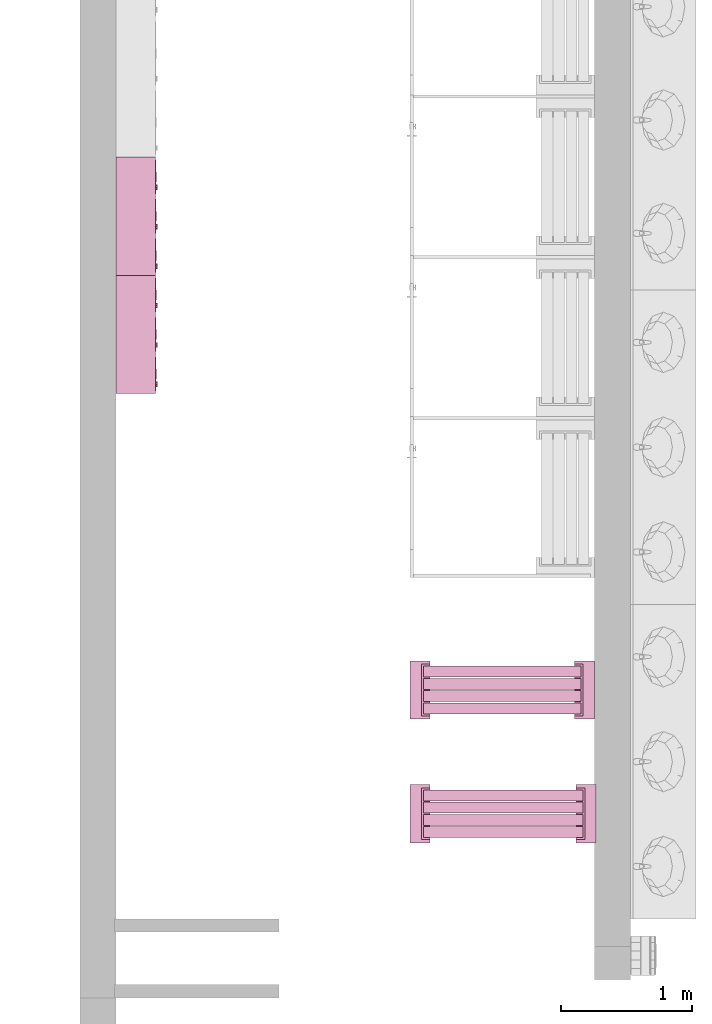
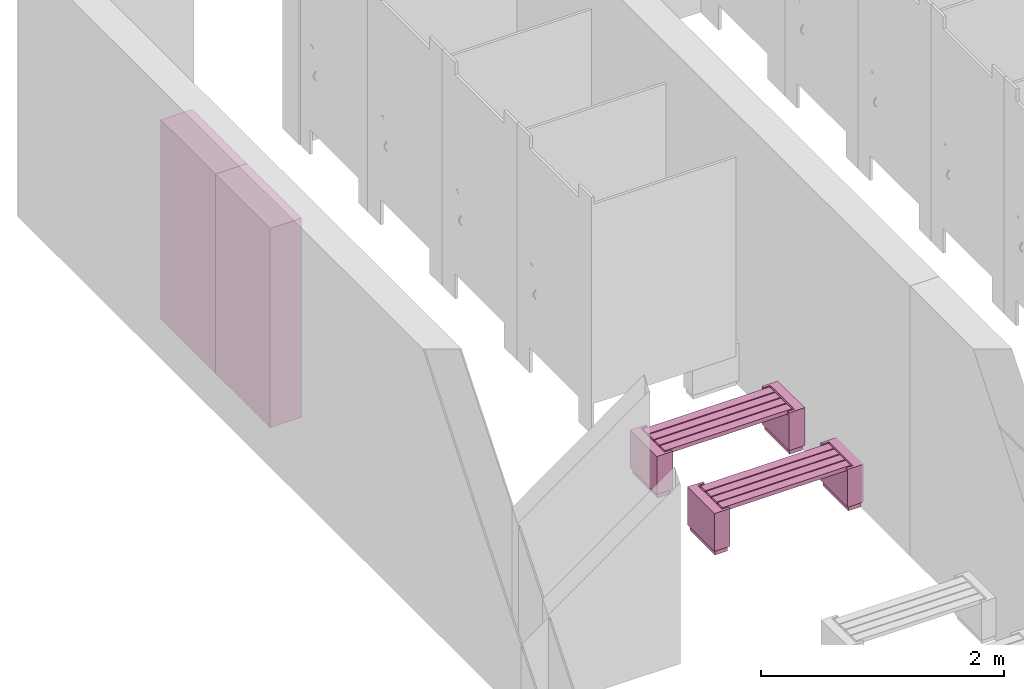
# One storey, part 18 of 22: 4 furnishings.
"""IFC2X3 building model written with IfcOpenShell, lengths in millimetres."""

from ifc_helpers import new_model, entity, si_unit, converted_unit, derived_unit, direction, frame, frame_2d, origin, origin_2d_with_axis, place, context, subcontext, project, spatial, polyline, rectangle, outline, extrude, source, transform, mapped, material, material_list, type_object, type_shapes, element, save


model = new_model("IFC2X3")

# Units and contexts
model_context = context("Model", 3, precision=0.01, world=origin(), true_north=direction((6.12303176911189e-17, 1.0)))
body_context = subcontext(model_context, "Body", "Model", "MODEL_VIEW")
ifc_project = project(units=[si_unit("LENGTHUNIT", "METRE", prefix="MILLI"), si_unit("AREAUNIT", "SQUARE_METRE"), si_unit("VOLUMEUNIT", "CUBIC_METRE"), converted_unit("PLANEANGLEUNIT", "DEGREE", entity("IfcRatioMeasure", 0.0174532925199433), si_unit("PLANEANGLEUNIT", "RADIAN"), dimensions=[0, 0, 0, 0, 0, 0, 0]), si_unit("MASSUNIT", "GRAM", prefix="KILO"), derived_unit("MASSDENSITYUNIT", [(si_unit("MASSUNIT", "GRAM", prefix="KILO"), 1), (si_unit("LENGTHUNIT", "METRE"), -3)]), si_unit("TIMEUNIT", "SECOND"), si_unit("FREQUENCYUNIT", "HERTZ"), si_unit("THERMODYNAMICTEMPERATUREUNIT", "DEGREE_CELSIUS"), derived_unit("THERMALTRANSMITTANCEUNIT", [(si_unit("MASSUNIT", "GRAM", prefix="KILO"), 1), (si_unit("THERMODYNAMICTEMPERATUREUNIT", "KELVIN"), -1), (si_unit("TIMEUNIT", "SECOND"), -3)]), derived_unit("VOLUMETRICFLOWRATEUNIT", [(si_unit("LENGTHUNIT", "METRE"), 3), (si_unit("TIMEUNIT", "SECOND"), -1)]), si_unit("ELECTRICCURRENTUNIT", "AMPERE"), si_unit("ELECTRICVOLTAGEUNIT", "VOLT"), si_unit("POWERUNIT", "WATT"), si_unit("FORCEUNIT", "NEWTON", prefix="KILO"), si_unit("ILLUMINANCEUNIT", "LUX"), si_unit("LUMINOUSFLUXUNIT", "LUMEN"), si_unit("LUMINOUSINTENSITYUNIT", "CANDELA"), derived_unit("USERDEFINED", [(si_unit("MASSUNIT", "GRAM", prefix="KILO"), -1), (si_unit("LENGTHUNIT", "METRE"), -2), (si_unit("TIMEUNIT", "SECOND"), 3), (si_unit("LUMINOUSFLUXUNIT", "LUMEN"), 1)]), derived_unit("LINEARVELOCITYUNIT", [(si_unit("LENGTHUNIT", "METRE"), 1), (si_unit("TIMEUNIT", "SECOND"), -1)]), si_unit("PRESSUREUNIT", "PASCAL"), derived_unit("USERDEFINED", [(si_unit("LENGTHUNIT", "METRE"), -2), (si_unit("MASSUNIT", "GRAM", prefix="KILO"), 1), (si_unit("TIMEUNIT", "SECOND"), -2)])], contexts=[model_context])

# Site, building, storey
site_placement = place(None, origin())
site = spatial("IfcSite", under=ifc_project, at=site_placement, Name="Default", CompositionType="ELEMENT")
building_placement = place(site_placement, origin())
building = spatial("IfcBuilding", under=site, at=building_placement, CompositionType="ELEMENT")
storey_placement = place(building_placement, frame((0.0, 0.0, -3000.0)))
storey = spatial("IfcBuildingStorey", under=building, at=storey_placement, Name="-2. Story", CompositionType="ELEMENT", Elevation=-3000.0)

# Furnishings
ifc_material_1 = material(Name="Metal - Stainless Steel")
ifc_material_2 = material(Name="Paint - Glossy White")
ifc_material_3 = material(Name="Paint - Cobalt Blue")
ifc_material_list_1 = material_list([ifc_material_1, ifc_material_2, ifc_material_3])
ifc_material_list_2 = material_list([ifc_material_1, ifc_material_2, ifc_material_3])
furniture_type_1 = type_object("IfcFurnitureType", Name="FU - 010", material=ifc_material_list_2)
shared_shape_1 = source(origin(), body_context, "Body", "SweptSolid", [
    extrude(outline(polyline([(-7.65366865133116, -18.4775906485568), (7.65366864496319, -18.4775906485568), (18.4775906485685, -7.65366865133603), (18.47759065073, 7.65366863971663), (7.65366865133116, 18.4775906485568), (-7.65366864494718, 18.4775906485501), (-18.4775906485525, 7.6536686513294), (-18.477590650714, -7.65366863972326), (-7.65366865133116, -18.4775906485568)])), frame((108074.18836, 87773.9483369, -1400.0), z_axis=(1.0, 0.0, 0.0), x_axis=(0.0, 0.923879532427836, 0.382683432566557)), (0.0, 0.0, 1.0), 10.0000000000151),
    extrude(rectangle(XDim=75.0000000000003, YDim=4.99999999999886, at=frame_2d((0.0, 8.66284821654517e-12), x_axis=(1.0, 0.0))), frame((108076.68836, 87853.9483369, -1000.0), z_axis=(0.0, 0.0, 1.0), x_axis=(0.0, 1.0, 0.0)), (0.0, 0.0, 1.0), 50.0),
    extrude(rectangle(XDim=259.999999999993, YDim=9.99999999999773, at=frame_2d((-8.65441052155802e-12, 1.73256964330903e-11), x_axis=(1.0, 0.0))), frame((108069.18836, 87853.9483369, -1880.0), z_axis=(0.0, 0.0, 1.0), x_axis=(0.0, -1.0, 0.0)), (0.0, 0.0, 1.0), 960.0),
    extrude(rectangle(XDim=300.000000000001, YDim=19.9999999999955, at=origin_2d_with_axis()), frame((107779.18836, 87853.9483369, -1900.0), z_axis=(0.0, 0.0, 1.0), x_axis=(0.0, 1.0, 0.0)), (0.0, 0.0, 1.0), 1000.0),
    extrude(outline(polyline([(-500.0, -150.0), (500.0, -150.0), (500.0, 150.0), (-500.0, 150.0), (-500.0, -150.0)]), holes=[polyline([(480.0, 130.0), (480.0, -130.0), (-480.0, -130.0), (-480.0, 130.0), (480.0, 130.0)])]), frame((107789.18836, 87853.9483369, -1400.0), z_axis=(1.0, 0.0, 0.0), x_axis=(0.0, 0.0, -1.0)), (0.0, 0.0, 1.0), 280.000000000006),
    extrude(outline(polyline([(-7.65366865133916, -18.4775906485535), (7.65366864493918, -18.4775906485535), (18.4775906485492, -7.6536686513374), (18.4775906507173, 7.65366863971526), (7.65366865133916, 18.4775906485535), (-7.65366864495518, 18.4775906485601), (-18.4775906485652, 7.65366865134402), (-18.4775906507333, -7.65366863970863), (-7.65366865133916, -18.4775906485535)])), frame((108074.18836, 87473.9483369, -1400.0), z_axis=(1.0, 0.0, 0.0), x_axis=(0.0, 0.923879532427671, 0.382683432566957)), (0.0, 0.0, 1.0), 10.0000000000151),
    extrude(rectangle(XDim=75.0000000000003, YDim=4.99999999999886, at=frame_2d((0.0, 8.66284821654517e-12), x_axis=(1.0, 0.0))), frame((108076.68836, 87553.9483369, -1000.0), z_axis=(0.0, 0.0, 1.0), x_axis=(0.0, 1.0, 0.0)), (0.0, 0.0, 1.0), 50.0),
    extrude(rectangle(XDim=259.999999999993, YDim=9.99999999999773, at=frame_2d((-8.65441052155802e-12, 1.73256964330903e-11), x_axis=(1.0, 0.0))), frame((108069.18836, 87553.9483369, -1880.0), z_axis=(0.0, 0.0, 1.0), x_axis=(0.0, -1.0, 0.0)), (0.0, 0.0, 1.0), 960.0),
    extrude(rectangle(XDim=300.000000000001, YDim=19.9999999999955, at=origin_2d_with_axis()), frame((107779.18836, 87553.9483369, -1900.0), z_axis=(0.0, 0.0, 1.0), x_axis=(0.0, 1.0, 0.0)), (0.0, 0.0, 1.0), 1000.0),
    extrude(outline(polyline([(-500.0, -150.0), (500.0, -150.0), (500.0, 150.0), (-500.0, 150.0), (-500.0, -150.0)]), holes=[polyline([(480.0, 130.0), (480.0, -130.0), (-480.0, -130.0), (-480.0, 130.0), (480.0, 130.0)])]), frame((107789.18836, 87553.9483369, -1400.0), z_axis=(1.0, 0.0, 0.0), x_axis=(0.0, 0.0, -1.0)), (0.0, 0.0, 1.0), 280.000000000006),
    extrude(outline(polyline([(-7.65366865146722, -18.4775906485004), (7.653668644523, -18.4775906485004), (18.4775906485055, -7.65366865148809), (18.4775906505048, 7.65366863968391), (7.65366865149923, 18.4775906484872), (-7.65366864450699, 18.4775906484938), (-18.4775906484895, 7.65366865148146), (-18.4775906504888, -7.65366863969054), (-7.65366865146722, -18.4775906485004)])), frame((108074.18836, 87173.9483369, -1400.0), z_axis=(1.0, 0.0, 0.0), x_axis=(0.0, 0.923879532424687, 0.38268343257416)), (0.0, 0.0, 1.0), 10.0000000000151),
    extrude(rectangle(XDim=75.0000000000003, YDim=4.99999999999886, at=frame_2d((0.0, 8.66284821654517e-12), x_axis=(1.0, 0.0))), frame((108076.68836, 87253.9483369, -1000.0), z_axis=(0.0, 0.0, 1.0), x_axis=(0.0, 1.0, 0.0)), (0.0, 0.0, 1.0), 50.0),
    extrude(rectangle(XDim=259.999999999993, YDim=9.99999999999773, at=frame_2d((-8.65441052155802e-12, 1.73256964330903e-11), x_axis=(1.0, 0.0))), frame((108069.18836, 87253.9483369, -1880.0), z_axis=(0.0, 0.0, 1.0), x_axis=(0.0, -1.0, 0.0)), (0.0, 0.0, 1.0), 960.0),
    extrude(rectangle(XDim=300.000000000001, YDim=19.9999999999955, at=origin_2d_with_axis()), frame((107779.18836, 87253.9483369, -1900.0), z_axis=(0.0, 0.0, 1.0), x_axis=(0.0, 1.0, 0.0)), (0.0, 0.0, 1.0), 1000.0),
    extrude(outline(polyline([(-500.0, -150.0), (500.0, -150.0), (500.0, 150.0), (-500.0, 150.0), (-500.0, -150.0)]), holes=[polyline([(480.0, 130.0), (480.0, -130.0), (-480.0, -130.0), (-480.0, 130.0), (480.0, 130.0)])]), frame((107789.18836, 87253.9483369, -1400.0), z_axis=(1.0, 0.0, 0.0), x_axis=(0.0, 0.0, -1.0)), (0.0, 0.0, 1.0), 280.000000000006),
    extrude(outline(polyline([(-7.65366864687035, -18.4775906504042), (7.65366864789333, -18.4775906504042), (18.4775906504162, -7.65366864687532), (18.477590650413, 7.65366864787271), (7.65366864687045, 18.4775906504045), (-7.65366864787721, 18.4775906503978), (-18.4775906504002, 7.65366864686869), (-18.4775906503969, -7.65366864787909), (-7.65366864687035, -18.4775906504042)])), frame((108074.18836, 87773.9483369, -2400.0), z_axis=(1.0, 0.0, 0.0), x_axis=(0.0, 0.923879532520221, 0.382683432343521)), (0.0, 0.0, 1.0), 10.0000000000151),
    extrude(rectangle(XDim=75.0000000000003, YDim=4.99999999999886, at=frame_2d((0.0, 8.66284821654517e-12), x_axis=(1.0, 0.0))), frame((108076.68836, 87853.9483369, -2000.0), z_axis=(0.0, 0.0, 1.0), x_axis=(0.0, 1.0, 0.0)), (0.0, 0.0, 1.0), 50.0),
    extrude(rectangle(XDim=259.999999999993, YDim=9.99999999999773, at=frame_2d((-8.65441052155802e-12, 1.73256964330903e-11), x_axis=(1.0, 0.0))), frame((108069.18836, 87853.9483369, -2880.0), z_axis=(0.0, 0.0, 1.0), x_axis=(0.0, -1.0, 0.0)), (0.0, 0.0, 1.0), 960.0),
    extrude(rectangle(XDim=300.000000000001, YDim=19.9999999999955, at=origin_2d_with_axis()), frame((107779.18836, 87853.9483369, -2900.0), z_axis=(0.0, 0.0, 1.0), x_axis=(0.0, 1.0, 0.0)), (0.0, 0.0, 1.0), 1000.0),
    extrude(outline(polyline([(-500.0, -150.0), (500.0, -150.0), (500.0, 150.0), (-500.0, 150.0), (-500.0, -150.0)]), holes=[polyline([(480.0, 130.0), (480.0, -130.0), (-480.0, -130.0), (-480.0, 130.0), (480.0, 130.0)])]), frame((107789.18836, 87853.9483369, -2400.0), z_axis=(1.0, 0.0, 0.0), x_axis=(0.0, 0.0, -1.0)), (0.0, 0.0, 1.0), 280.000000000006),
    extrude(outline(polyline([(-7.65366864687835, -18.4775906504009), (7.65366864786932, -18.4775906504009), (18.4775906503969, -7.65366864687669), (18.4775906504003, 7.65366864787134), (7.65366864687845, 18.4775906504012), (-7.65366864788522, 18.4775906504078), (-18.4775906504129, 7.65366864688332), (-18.4775906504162, -7.65366864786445), (-7.65366864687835, -18.4775906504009)])), frame((108074.18836, 87473.9483369, -2400.0), z_axis=(1.0, 0.0, 0.0), x_axis=(0.0, 0.923879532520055, 0.382683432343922)), (0.0, 0.0, 1.0), 10.0000000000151),
    extrude(rectangle(XDim=75.0000000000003, YDim=4.99999999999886, at=frame_2d((0.0, 8.66284821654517e-12), x_axis=(1.0, 0.0))), frame((108076.68836, 87553.9483369, -2000.0), z_axis=(0.0, 0.0, 1.0), x_axis=(0.0, 1.0, 0.0)), (0.0, 0.0, 1.0), 50.0),
    extrude(rectangle(XDim=259.999999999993, YDim=9.99999999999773, at=frame_2d((-8.65441052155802e-12, 1.73256964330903e-11), x_axis=(1.0, 0.0))), frame((108069.18836, 87553.9483369, -2880.0), z_axis=(0.0, 0.0, 1.0), x_axis=(0.0, -1.0, 0.0)), (0.0, 0.0, 1.0), 960.0),
    extrude(rectangle(XDim=300.000000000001, YDim=19.9999999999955, at=origin_2d_with_axis()), frame((107779.18836, 87553.9483369, -2900.0), z_axis=(0.0, 0.0, 1.0), x_axis=(0.0, 1.0, 0.0)), (0.0, 0.0, 1.0), 1000.0),
    extrude(outline(polyline([(-500.0, -150.0), (500.0, -150.0), (500.0, 150.0), (-500.0, 150.0), (-500.0, -150.0)]), holes=[polyline([(480.0, 130.0), (480.0, -130.0), (-480.0, -130.0), (-480.0, 130.0), (480.0, 130.0)])]), frame((107789.18836, 87553.9483369, -2400.0), z_axis=(1.0, 0.0, 0.0), x_axis=(0.0, 0.0, -1.0)), (0.0, 0.0, 1.0), 280.000000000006),
    extrude(outline(polyline([(-7.65366864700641, -18.4775906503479), (7.65366864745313, -18.4775906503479), (18.4775906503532, -7.65366864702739), (18.4775906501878, 7.65366864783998), (7.65366864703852, 18.4775906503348), (-7.65366864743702, 18.4775906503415), (-18.4775906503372, 7.65366864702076), (-18.4775906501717, -7.65366864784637), (-7.65366864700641, -18.4775906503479)])), frame((108074.18836, 87173.9483369, -2400.0), z_axis=(1.0, 0.0, 0.0), x_axis=(0.0, 0.923879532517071, 0.382683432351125)), (0.0, 0.0, 1.0), 10.0000000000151),
    extrude(rectangle(XDim=75.0000000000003, YDim=4.99999999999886, at=frame_2d((0.0, 8.66284821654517e-12), x_axis=(1.0, 0.0))), frame((108076.68836, 87253.9483369, -2000.0), z_axis=(0.0, 0.0, 1.0), x_axis=(0.0, 1.0, 0.0)), (0.0, 0.0, 1.0), 50.0),
    extrude(rectangle(XDim=259.999999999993, YDim=9.99999999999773, at=frame_2d((-8.65441052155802e-12, 1.73256964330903e-11), x_axis=(1.0, 0.0))), frame((108069.18836, 87253.9483369, -2880.0), z_axis=(0.0, 0.0, 1.0), x_axis=(0.0, -1.0, 0.0)), (0.0, 0.0, 1.0), 960.0),
    extrude(rectangle(XDim=300.000000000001, YDim=19.9999999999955, at=origin_2d_with_axis()), frame((107779.18836, 87253.9483369, -2900.0), z_axis=(0.0, 0.0, 1.0), x_axis=(0.0, 1.0, 0.0)), (0.0, 0.0, 1.0), 1000.0),
    extrude(outline(polyline([(-500.0, -150.0), (500.0, -150.0), (500.0, 150.0), (-500.0, 150.0), (-500.0, -150.0)]), holes=[polyline([(480.0, 130.0), (480.0, -130.0), (-480.0, -130.0), (-480.0, 130.0), (480.0, 130.0)])]), frame((107789.18836, 87253.9483369, -2400.0), z_axis=(1.0, 0.0, 0.0), x_axis=(0.0, 0.0, -1.0)), (0.0, 0.0, 1.0), 280.000000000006),
])
type_shapes(furniture_type_1, [shared_shape_1])
furnishing_1_placement = place(storey_placement, frame((0.0, 0.0, 3000.0)))
element("IfcFurnishingElement", 1, at=furnishing_1_placement, inside=storey, type_object=furniture_type_1, material=ifc_material_list_1, Name="FU - 010 1603691:FU - 010 1603691", ObjectType="FU - 010 1603691:FU - 010 1603691", context=body_context, shape_type="MappedRepresentation", body=[
    mapped(shared_shape_1, transform((0.0, 0.0, 0.0), scale=1.0)),
])
ifc_material_4 = material(Name="Wood - Pine Grained Horizontal")
ifc_material_5 = material(Name="Paint - Titanium White")
ifc_material_list_3 = material_list([ifc_material_4, ifc_material_5])
ifc_material_list_4 = material_list([ifc_material_4, ifc_material_5])
furniture_type_2 = type_object("IfcFurnitureType", Name="FU - 011", material=ifc_material_list_4)
shared_shape_2 = source(origin(), body_context, "Body", "SweptSolid", [
    extrude(rectangle(XDim=83.1575481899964, YDim=1214.87365918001, at=frame_2d((-8.66506866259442e-12, 8.69704308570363e-12), x_axis=(1.0, 0.0))), frame((110716.29375159, 84043.684659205, -2510.0), z_axis=(0.0, 0.0, 1.0), x_axis=(0.0, -1.0, 0.0)), (0.0, 0.0, 1.0), 40.0000000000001),
    extrude(rectangle(XDim=83.157548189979, YDim=1214.87365918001, at=frame_2d((0.0, 8.69704308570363e-12), x_axis=(1.0, 0.0))), frame((110716.29375159, 83950.527111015, -2510.0), z_axis=(0.0, 0.0, 1.0), x_axis=(0.0, -1.0, 0.0)), (0.0, 0.0, 1.0), 40.0000000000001),
    extrude(rectangle(XDim=83.1575481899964, YDim=1214.87365918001, at=frame_2d((8.66506866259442e-12, 8.69704308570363e-12), x_axis=(1.0, 0.0))), frame((110716.29375159, 83857.369562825, -2510.0), z_axis=(0.0, 0.0, 1.0), x_axis=(0.0, -1.0, 0.0)), (0.0, 0.0, 1.0), 40.0000000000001),
    extrude(rectangle(XDim=83.1575481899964, YDim=1214.87365918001, at=frame_2d((-8.66506866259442e-12, 8.69704308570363e-12), x_axis=(1.0, 0.0))), frame((110716.29375159, 83764.212014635, -2510.0), z_axis=(0.0, 0.0, 1.0), x_axis=(0.0, -1.0, 0.0)), (0.0, 0.0, 1.0), 40.0000000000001),
    extrude(outline(polyline([(-53.7499999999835, -221.315096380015), (96.2500000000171, -221.315096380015), (96.2500000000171, 221.315096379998), (-53.7499999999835, 221.315096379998), (-53.7499999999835, 196.315096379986), (11.2500000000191, 196.315096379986), (11.2500000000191, -196.315096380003), (-53.7499999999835, -196.315096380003), (-53.7499999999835, -221.315096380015)])), frame((111327.48058118, 83903.94833692, -2510.0)), (0.0, 0.0, 1.0), 40.0000000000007),
    extrude(rectangle(XDim=150.000000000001, YDim=442.630192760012, at=frame_2d((0.0, -8.66862137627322e-12), x_axis=(1.0, 0.0))), frame((111348.73058118, 83903.94833692, -2850.0)), (0.0, 0.0, 1.0), 340.0),
    extrude(rectangle(XDim=120.000000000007, YDim=412.630192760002, at=origin_2d_with_axis()), frame((111348.73058118, 83903.94833692, -2900.0)), (0.0, 0.0, 1.0), 50.0),
    extrude(outline(polyline([(-221.315096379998, -96.2499999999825), (221.315096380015, -96.2499999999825), (221.315096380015, 53.7500000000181), (196.315096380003, 53.7500000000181), (196.315096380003, -11.2499999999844), (-196.315096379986, -11.2499999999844), (-196.315096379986, 53.7500000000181), (-221.315096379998, 53.7500000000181), (-221.315096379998, -96.2499999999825)])), frame((110105.106922, 83903.94833692, -2510.0), z_axis=(0.0, 0.0, 1.0), x_axis=(0.0, -1.0, 0.0)), (0.0, 0.0, 1.0), 40.0000000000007),
    extrude(rectangle(XDim=442.630192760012, YDim=150.000000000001, at=frame_2d((8.66862137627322e-12, 0.0), x_axis=(1.0, 0.0))), frame((110083.856922, 83903.94833692, -2850.0), z_axis=(0.0, 0.0, 1.0), x_axis=(0.0, -1.0, 0.0)), (0.0, 0.0, 1.0), 340.0),
    extrude(rectangle(XDim=412.630192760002, YDim=120.000000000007, at=origin_2d_with_axis()), frame((110083.856922, 83903.94833692, -2900.0), z_axis=(0.0, 0.0, 1.0), x_axis=(0.0, -1.0, 0.0)), (0.0, 0.0, 1.0), 50.0),
])
type_shapes(furniture_type_2, [shared_shape_2])
furnishing_2_placement = place(storey_placement, frame((0.0, 0.0, 3000.0)))
element("IfcFurnishingElement", 2, at=furnishing_2_placement, inside=storey, type_object=furniture_type_2, material=ifc_material_list_3, Name="FU - 011 1604263:FU - 011 1604263", ObjectType="FU - 011 1604263:FU - 011 1604263", context=body_context, shape_type="MappedRepresentation", body=[
    mapped(shared_shape_2, transform((0.0, 0.0, 0.0), scale=1.0)),
])
ifc_material_list_5 = material_list([ifc_material_4, ifc_material_5])
ifc_material_list_6 = material_list([ifc_material_4, ifc_material_5])
furniture_type_3 = type_object("IfcFurnitureType", Name="FU - 011", material=ifc_material_list_6)
shared_shape_3 = source(origin(), body_context, "Body", "SweptSolid", [
    extrude(rectangle(XDim=83.1575481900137, YDim=1202.37365918, at=frame_2d((0.0, 8.64019966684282e-12), x_axis=(1.0, 0.0))), frame((110710.04375159, 84986.314851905, -2510.0), z_axis=(0.0, 0.0, 1.0), x_axis=(0.0, -1.0, 0.0)), (0.0, 0.0, 1.0), 40.0000000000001),
    extrude(rectangle(XDim=83.157548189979, YDim=1202.37365918, at=frame_2d((0.0, 8.64019966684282e-12), x_axis=(1.0, 0.0))), frame((110710.04375159, 84893.157303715, -2510.0), z_axis=(0.0, 0.0, 1.0), x_axis=(0.0, -1.0, 0.0)), (0.0, 0.0, 1.0), 40.0000000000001),
    extrude(rectangle(XDim=83.1575481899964, YDim=1202.37365918, at=frame_2d((8.66506866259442e-12, 8.64019966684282e-12), x_axis=(1.0, 0.0))), frame((110710.04375159, 84799.999755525, -2510.0), z_axis=(0.0, 0.0, 1.0), x_axis=(0.0, -1.0, 0.0)), (0.0, 0.0, 1.0), 40.0000000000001),
    extrude(rectangle(XDim=83.1575481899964, YDim=1202.37365918, at=frame_2d((-8.66506866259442e-12, 8.64019966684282e-12), x_axis=(1.0, 0.0))), frame((110710.04375159, 84706.842207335, -2510.0), z_axis=(0.0, 0.0, 1.0), x_axis=(0.0, -1.0, 0.0)), (0.0, 0.0, 1.0), 40.0000000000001),
    extrude(outline(polyline([(-53.7499999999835, -221.315096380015), (96.2500000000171, -221.315096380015), (96.2500000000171, 221.315096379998), (-53.7499999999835, 221.315096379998), (-53.7499999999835, 196.315096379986), (11.2500000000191, 196.315096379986), (11.2500000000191, -196.315096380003), (-53.7499999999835, -196.315096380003), (-53.7499999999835, -221.315096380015)])), frame((111314.98058118, 84846.57852962, -2510.0)), (0.0, 0.0, 1.0), 40.0000000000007),
    extrude(rectangle(XDim=150.000000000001, YDim=442.630192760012, at=frame_2d((0.0, -8.66862137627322e-12), x_axis=(1.0, 0.0))), frame((111336.23058118, 84846.57852962, -2850.0)), (0.0, 0.0, 1.0), 340.0),
    extrude(rectangle(XDim=119.99999999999, YDim=412.630192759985, at=frame_2d((8.66506866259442e-12, -8.66862137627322e-12), x_axis=(1.0, 0.0))), frame((111336.23058118, 84846.57852962, -2900.0)), (0.0, 0.0, 1.0), 50.0),
    extrude(outline(polyline([(-221.315096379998, -96.2499999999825), (221.315096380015, -96.2499999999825), (221.315096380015, 53.7500000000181), (196.315096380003, 53.7500000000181), (196.315096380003, -11.2499999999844), (-196.315096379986, -11.2499999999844), (-196.315096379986, 53.7500000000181), (-221.315096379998, 53.7500000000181), (-221.315096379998, -96.2499999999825)])), frame((110105.106922, 84846.57852962, -2510.0), z_axis=(0.0, 0.0, 1.0), x_axis=(0.0, -1.0, 0.0)), (0.0, 0.0, 1.0), 40.0000000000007),
    extrude(rectangle(XDim=442.630192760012, YDim=150.000000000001, at=frame_2d((8.66862137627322e-12, 0.0), x_axis=(1.0, 0.0))), frame((110083.856922, 84846.57852962, -2850.0), z_axis=(0.0, 0.0, 1.0), x_axis=(0.0, -1.0, 0.0)), (0.0, 0.0, 1.0), 340.0),
    extrude(rectangle(XDim=412.630192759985, YDim=120.000000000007, at=frame_2d((8.66862137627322e-12, 0.0), x_axis=(1.0, 0.0))), frame((110083.856922, 84846.57852962, -2900.0), z_axis=(0.0, 0.0, 1.0), x_axis=(0.0, -1.0, 0.0)), (0.0, 0.0, 1.0), 50.0),
])
type_shapes(furniture_type_3, [shared_shape_3])
furnishing_3_placement = place(storey_placement, frame((0.0, 0.0, 3000.0)))
element("IfcFurnishingElement", 3, at=furnishing_3_placement, inside=storey, type_object=furniture_type_3, material=ifc_material_list_5, Name="FU - 011 1604412:FU - 011 1604412", ObjectType="FU - 011 1604412:FU - 011 1604412", context=body_context, shape_type="MappedRepresentation", body=[
    mapped(shared_shape_3, transform((0.0, 0.0, 0.0), scale=1.0)),
])
ifc_material_list_7 = material_list([ifc_material_1, ifc_material_2, ifc_material_3])
ifc_material_list_8 = material_list([ifc_material_1, ifc_material_2, ifc_material_3])
furniture_type_4 = type_object("IfcFurnitureType", Name="FU - 010", material=ifc_material_list_8)
shared_shape_4 = source(origin(), body_context, "Body", "SweptSolid", [
    extrude(outline(polyline([(-7.65366865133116, -18.4775906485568), (7.65366864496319, -18.4775906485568), (18.4775906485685, -7.65366865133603), (18.47759065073, 7.65366863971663), (7.65366865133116, 18.4775906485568), (-7.65366864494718, 18.4775906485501), (-18.4775906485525, 7.6536686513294), (-18.477590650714, -7.65366863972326), (-7.65366865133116, -18.4775906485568)])), frame((108074.18836, 88673.9483369, -1400.0), z_axis=(1.0, 0.0, 0.0), x_axis=(0.0, 0.923879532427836, 0.382683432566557)), (0.0, 0.0, 1.0), 10.0000000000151),
    extrude(rectangle(XDim=75.0000000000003, YDim=4.99999999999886, at=frame_2d((0.0, 8.66284821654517e-12), x_axis=(1.0, 0.0))), frame((108076.68836, 88753.9483369, -1000.0), z_axis=(0.0, 0.0, 1.0), x_axis=(0.0, 1.0, 0.0)), (0.0, 0.0, 1.0), 50.0),
    extrude(rectangle(XDim=259.999999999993, YDim=9.99999999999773, at=frame_2d((-8.65441052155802e-12, 1.73256964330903e-11), x_axis=(1.0, 0.0))), frame((108069.18836, 88753.9483369, -1880.0), z_axis=(0.0, 0.0, 1.0), x_axis=(0.0, -1.0, 0.0)), (0.0, 0.0, 1.0), 960.0),
    extrude(rectangle(XDim=300.000000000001, YDim=19.9999999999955, at=origin_2d_with_axis()), frame((107779.18836, 88753.9483369, -1900.0), z_axis=(0.0, 0.0, 1.0), x_axis=(0.0, 1.0, 0.0)), (0.0, 0.0, 1.0), 1000.0),
    extrude(outline(polyline([(-500.0, -150.0), (500.0, -150.0), (500.0, 150.0), (-500.0, 150.0), (-500.0, -150.0)]), holes=[polyline([(480.0, 130.0), (480.0, -130.0), (-480.0, -130.0), (-480.0, 130.0), (480.0, 130.0)])]), frame((107789.18836, 88753.9483369, -1400.0), z_axis=(1.0, 0.0, 0.0), x_axis=(0.0, 0.0, -1.0)), (0.0, 0.0, 1.0), 280.000000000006),
    extrude(outline(polyline([(-7.65366865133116, -18.4775906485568), (7.65366864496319, -18.4775906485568), (18.4775906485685, -7.65366865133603), (18.47759065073, 7.65366863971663), (7.65366865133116, 18.4775906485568), (-7.65366864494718, 18.4775906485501), (-18.4775906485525, 7.6536686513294), (-18.477590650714, -7.65366863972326), (-7.65366865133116, -18.4775906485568)])), frame((108074.18836, 88373.9483369, -1400.0), z_axis=(1.0, 0.0, 0.0), x_axis=(0.0, 0.923879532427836, 0.382683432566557)), (0.0, 0.0, 1.0), 10.0000000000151),
    extrude(rectangle(XDim=75.0000000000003, YDim=4.99999999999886, at=frame_2d((0.0, 8.66284821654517e-12), x_axis=(1.0, 0.0))), frame((108076.68836, 88453.9483369, -1000.0), z_axis=(0.0, 0.0, 1.0), x_axis=(0.0, 1.0, 0.0)), (0.0, 0.0, 1.0), 50.0),
    extrude(rectangle(XDim=259.999999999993, YDim=9.99999999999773, at=frame_2d((-8.65441052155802e-12, 1.73256964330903e-11), x_axis=(1.0, 0.0))), frame((108069.18836, 88453.9483369, -1880.0), z_axis=(0.0, 0.0, 1.0), x_axis=(0.0, -1.0, 0.0)), (0.0, 0.0, 1.0), 960.0),
    extrude(rectangle(XDim=300.000000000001, YDim=19.9999999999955, at=origin_2d_with_axis()), frame((107779.18836, 88453.9483369, -1900.0), z_axis=(0.0, 0.0, 1.0), x_axis=(0.0, 1.0, 0.0)), (0.0, 0.0, 1.0), 1000.0),
    extrude(outline(polyline([(-500.0, -150.0), (500.0, -150.0), (500.0, 150.0), (-500.0, 150.0), (-500.0, -150.0)]), holes=[polyline([(480.0, 130.0), (480.0, -130.0), (-480.0, -130.0), (-480.0, 130.0), (480.0, 130.0)])]), frame((107789.18836, 88453.9483369, -1400.0), z_axis=(1.0, 0.0, 0.0), x_axis=(0.0, 0.0, -1.0)), (0.0, 0.0, 1.0), 280.000000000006),
    extrude(outline(polyline([(-7.65366865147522, -18.4775906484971), (7.653668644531, -18.4775906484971), (18.4775906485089, -7.65366865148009), (18.4775906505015, 7.65366863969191), (7.65366865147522, 18.4775906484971), (-7.65366864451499, 18.4775906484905), (-18.4775906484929, 7.65366865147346), (-18.4775906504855, -7.65366863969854), (-7.65366865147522, -18.4775906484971)])), frame((108074.18836, 88073.9483369, -1400.0), z_axis=(1.0, 0.0, 0.0), x_axis=(0.0, 0.923879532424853, 0.38268343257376)), (0.0, 0.0, 1.0), 10.0000000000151),
    extrude(rectangle(XDim=75.0000000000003, YDim=4.99999999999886, at=frame_2d((0.0, 8.66284821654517e-12), x_axis=(1.0, 0.0))), frame((108076.68836, 88153.9483369, -1000.0), z_axis=(0.0, 0.0, 1.0), x_axis=(0.0, 1.0, 0.0)), (0.0, 0.0, 1.0), 50.0),
    extrude(rectangle(XDim=259.999999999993, YDim=9.99999999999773, at=frame_2d((-8.65441052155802e-12, 1.73256964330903e-11), x_axis=(1.0, 0.0))), frame((108069.18836, 88153.9483369, -1880.0), z_axis=(0.0, 0.0, 1.0), x_axis=(0.0, -1.0, 0.0)), (0.0, 0.0, 1.0), 960.0),
    extrude(rectangle(XDim=299.999999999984, YDim=19.9999999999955, at=frame_2d((8.65441052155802e-12, 0.0), x_axis=(1.0, 0.0))), frame((107779.18836, 88153.9483369, -1900.0), z_axis=(0.0, 0.0, 1.0), x_axis=(0.0, 1.0, 0.0)), (0.0, 0.0, 1.0), 1000.0),
    extrude(outline(polyline([(-500.0, -150.0), (500.0, -150.0), (500.0, 150.0), (-500.0, 150.0), (-500.0, -150.0)]), holes=[polyline([(480.0, 130.0), (480.0, -130.0), (-480.0, -130.0), (-480.0, 130.0), (480.0, 130.0)])]), frame((107789.18836, 88153.9483369, -1400.0), z_axis=(1.0, 0.0, 0.0), x_axis=(0.0, 0.0, -1.0)), (0.0, 0.0, 1.0), 280.000000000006),
    extrude(outline(polyline([(-7.65366864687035, -18.4775906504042), (7.65366864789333, -18.4775906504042), (18.4775906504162, -7.65366864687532), (18.477590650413, 7.65366864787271), (7.65366864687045, 18.4775906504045), (-7.65366864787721, 18.4775906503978), (-18.4775906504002, 7.65366864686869), (-18.4775906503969, -7.65366864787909), (-7.65366864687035, -18.4775906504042)])), frame((108074.18836, 88673.9483369, -2400.0), z_axis=(1.0, 0.0, 0.0), x_axis=(0.0, 0.923879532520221, 0.382683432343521)), (0.0, 0.0, 1.0), 10.0000000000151),
    extrude(rectangle(XDim=75.0000000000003, YDim=4.99999999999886, at=frame_2d((0.0, 8.66284821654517e-12), x_axis=(1.0, 0.0))), frame((108076.68836, 88753.9483369, -2000.0), z_axis=(0.0, 0.0, 1.0), x_axis=(0.0, 1.0, 0.0)), (0.0, 0.0, 1.0), 50.0),
    extrude(rectangle(XDim=259.999999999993, YDim=9.99999999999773, at=frame_2d((-8.65441052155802e-12, 1.73256964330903e-11), x_axis=(1.0, 0.0))), frame((108069.18836, 88753.9483369, -2880.0), z_axis=(0.0, 0.0, 1.0), x_axis=(0.0, -1.0, 0.0)), (0.0, 0.0, 1.0), 960.0),
    extrude(rectangle(XDim=300.000000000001, YDim=19.9999999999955, at=origin_2d_with_axis()), frame((107779.18836, 88753.9483369, -2900.0), z_axis=(0.0, 0.0, 1.0), x_axis=(0.0, 1.0, 0.0)), (0.0, 0.0, 1.0), 1000.0),
    extrude(outline(polyline([(-500.0, -150.0), (500.0, -150.0), (500.0, 150.0), (-500.0, 150.0), (-500.0, -150.0)]), holes=[polyline([(480.0, 130.0), (480.0, -130.0), (-480.0, -130.0), (-480.0, 130.0), (480.0, 130.0)])]), frame((107789.18836, 88753.9483369, -2400.0), z_axis=(1.0, 0.0, 0.0), x_axis=(0.0, 0.0, -1.0)), (0.0, 0.0, 1.0), 280.000000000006),
    extrude(outline(polyline([(-7.65366864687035, -18.4775906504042), (7.65366864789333, -18.4775906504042), (18.4775906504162, -7.65366864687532), (18.477590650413, 7.65366864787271), (7.65366864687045, 18.4775906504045), (-7.65366864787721, 18.4775906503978), (-18.4775906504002, 7.65366864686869), (-18.4775906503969, -7.65366864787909), (-7.65366864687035, -18.4775906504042)])), frame((108074.18836, 88373.9483369, -2400.0), z_axis=(1.0, 0.0, 0.0), x_axis=(0.0, 0.923879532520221, 0.382683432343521)), (0.0, 0.0, 1.0), 10.0000000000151),
    extrude(rectangle(XDim=75.0000000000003, YDim=4.99999999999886, at=frame_2d((0.0, 8.66284821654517e-12), x_axis=(1.0, 0.0))), frame((108076.68836, 88453.9483369, -2000.0), z_axis=(0.0, 0.0, 1.0), x_axis=(0.0, 1.0, 0.0)), (0.0, 0.0, 1.0), 50.0),
    extrude(rectangle(XDim=259.999999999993, YDim=9.99999999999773, at=frame_2d((-8.65441052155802e-12, 1.73256964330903e-11), x_axis=(1.0, 0.0))), frame((108069.18836, 88453.9483369, -2880.0), z_axis=(0.0, 0.0, 1.0), x_axis=(0.0, -1.0, 0.0)), (0.0, 0.0, 1.0), 960.0),
    extrude(rectangle(XDim=300.000000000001, YDim=19.9999999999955, at=origin_2d_with_axis()), frame((107779.18836, 88453.9483369, -2900.0), z_axis=(0.0, 0.0, 1.0), x_axis=(0.0, 1.0, 0.0)), (0.0, 0.0, 1.0), 1000.0),
    extrude(outline(polyline([(-500.0, -150.0), (500.0, -150.0), (500.0, 150.0), (-500.0, 150.0), (-500.0, -150.0)]), holes=[polyline([(480.0, 130.0), (480.0, -130.0), (-480.0, -130.0), (-480.0, 130.0), (480.0, 130.0)])]), frame((107789.18836, 88453.9483369, -2400.0), z_axis=(1.0, 0.0, 0.0), x_axis=(0.0, 0.0, -1.0)), (0.0, 0.0, 1.0), 280.000000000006),
    extrude(outline(polyline([(-7.65366864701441, -18.4775906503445), (7.65366864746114, -18.4775906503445), (18.4775906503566, -7.65366864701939), (18.4775906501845, 7.65366864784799), (7.65366864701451, 18.4775906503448), (-7.65366864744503, 18.4775906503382), (-18.4775906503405, 7.65366864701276), (-18.4775906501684, -7.65366864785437), (-7.65366864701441, -18.4775906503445)])), frame((108074.18836, 88073.9483369, -2400.0), z_axis=(1.0, 0.0, 0.0), x_axis=(0.0, 0.923879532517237, 0.382683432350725)), (0.0, 0.0, 1.0), 10.0000000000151),
    extrude(rectangle(XDim=75.0000000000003, YDim=4.99999999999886, at=frame_2d((0.0, 8.66284821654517e-12), x_axis=(1.0, 0.0))), frame((108076.68836, 88153.9483369, -2000.0), z_axis=(0.0, 0.0, 1.0), x_axis=(0.0, 1.0, 0.0)), (0.0, 0.0, 1.0), 50.0),
    extrude(rectangle(XDim=259.999999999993, YDim=9.99999999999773, at=frame_2d((-8.65441052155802e-12, 1.73256964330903e-11), x_axis=(1.0, 0.0))), frame((108069.18836, 88153.9483369, -2880.0), z_axis=(0.0, 0.0, 1.0), x_axis=(0.0, -1.0, 0.0)), (0.0, 0.0, 1.0), 960.0),
    extrude(rectangle(XDim=299.999999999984, YDim=19.9999999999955, at=frame_2d((8.65441052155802e-12, 0.0), x_axis=(1.0, 0.0))), frame((107779.18836, 88153.9483369, -2900.0), z_axis=(0.0, 0.0, 1.0), x_axis=(0.0, 1.0, 0.0)), (0.0, 0.0, 1.0), 1000.0),
    extrude(outline(polyline([(-500.0, -150.0), (500.0, -150.0), (500.0, 150.0), (-500.0, 150.0), (-500.0, -150.0)]), holes=[polyline([(480.0, 130.0), (480.0, -130.0), (-480.0, -130.0), (-480.0, 130.0), (480.0, 130.0)])]), frame((107789.18836, 88153.9483369, -2400.0), z_axis=(1.0, 0.0, 0.0), x_axis=(0.0, 0.0, -1.0)), (0.0, 0.0, 1.0), 280.000000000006),
])
type_shapes(furniture_type_4, [shared_shape_4])
furnishing_4_placement = place(storey_placement, frame((0.0, 0.0, 3000.0)))
element("IfcFurnishingElement", 4, at=furnishing_4_placement, inside=storey, type_object=furniture_type_4, material=ifc_material_list_7, Name="FU - 010 1605339:FU - 010 1605339", ObjectType="FU - 010 1605339:FU - 010 1605339", context=body_context, shape_type="MappedRepresentation", body=[
    mapped(shared_shape_4, transform((0.0, 0.0, 0.0), scale=1.0)),
])

save(model, "model.ifc")
